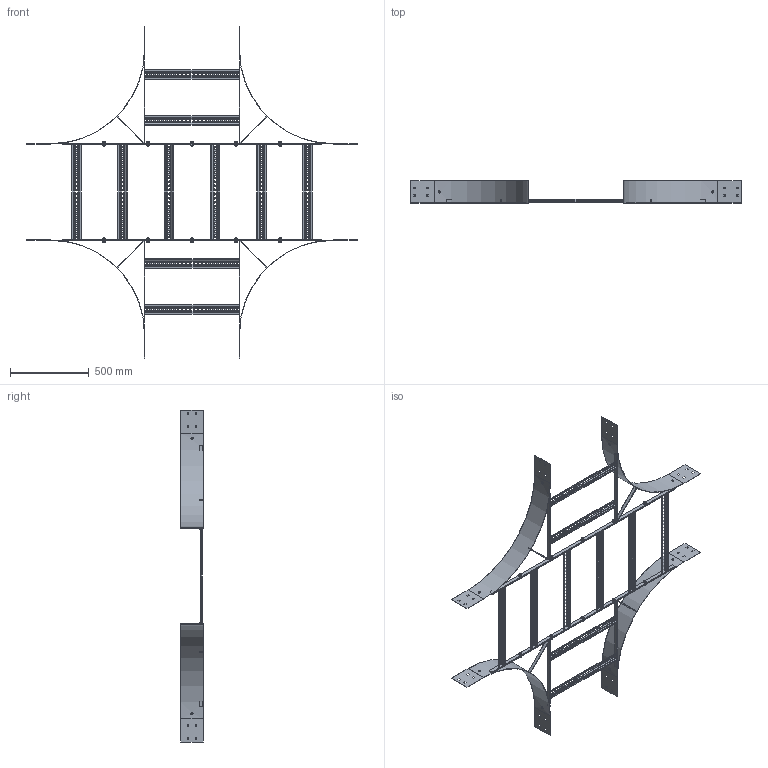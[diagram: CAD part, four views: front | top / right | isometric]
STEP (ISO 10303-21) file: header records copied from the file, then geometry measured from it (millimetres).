
FILE_DESCRIPTION (( 'STEP AP203' ), '1' );
FILE_NAME ('N20C C 6006.STEP', '2024-08-28T23:31:46', ( '' ), ( '' ), 'SwSTEP 2.0', 'SolidWorks 2023', '' );
FILE_SCHEMA (( 'CONFIG_CONTROL_DESIGN' ));
Length unit declared in the file: millimetre
Products named in the file (14): CNH M10 Collar Nut_CNH M10 collar nut HDG; Ladder Tee 20x5 Flat Bar_1645; Ladder Rung_Ladder Rung -  600mm; N20C C 6006; N20C RADIUS PLATE_N1-600 IR; N20CC6006 horizontal_N20C C; Washers_M10 washer; Fascia bolt - M10x25_Fascia bolt; Fascia Kit M10x25_4th position; Ladder Tee 20x5 Flat Bar_240; Ladder Tee 20x5 Flat Bar_518; N20CC6006 vertical with sides_N20C C
Assembly tree (33 placements, depth 3):
  N20C C 6006
    N20CC6006 vertical with sides_N20C C  x2
      Ladder Tee 20x5 Flat Bar_1645
      N20C RADIUS PLATE_N1-600 IR
      Ladder Rung_Ladder Rung -  600mm
      Ladder Tee 20x5 Flat Bar_518
      Ladder Tee 20x5 Flat Bar_240
    N20CC6006 horizontal_N20C C
      Ladder Rung_Ladder Rung -  600mm  x6
      Ladder Tee 20x5 Flat Bar_1645
      Ladder Tee 20x5 Flat Bar_1645
    Fascia Kit M10x25_4th position  x10
      Fascia bolt - M10x25_Fascia bolt
      Washers_M10 washer
      CNH M10 Collar Nut_CNH M10 collar nut HDG
Bounding box: 2100 x 140 x 2110 mm (x, y, z)
Volume: 3018033.2 mm3; surface area: 2764211.8 mm2
Topology: 56 solids, 56 shells, 3552 faces, 9498 edges, 6098 vertices
Faces by surface type: plane 2968, cylinder 204, cone 140, bspline 140, torus 80, sphere 20
Entity records: 17943 total; most frequent: CARTESIAN_POINT 4243, ORIENTED_EDGE 2466, DIRECTION 2263, EDGE_CURVE 1233, LINE 981, VECTOR 981, VERTEX_POINT 797, AXIS2_PLACEMENT_3D 641
